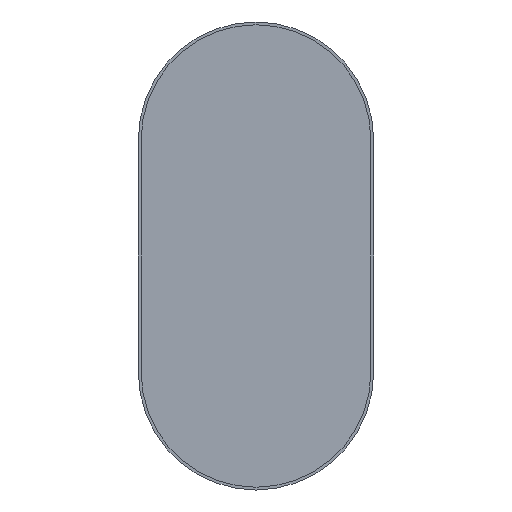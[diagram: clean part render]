
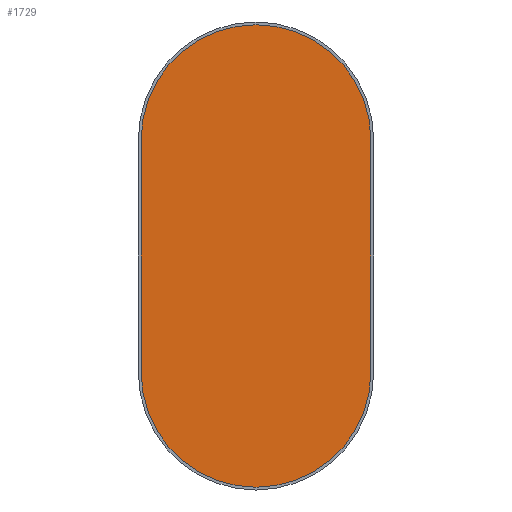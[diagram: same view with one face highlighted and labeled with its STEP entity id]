
A CAD part, front view. The second image highlights one B-rep face of the part: STEP entity #1729.
In plain terms, the highlighted planar face has unit normal (0, -1, 0).
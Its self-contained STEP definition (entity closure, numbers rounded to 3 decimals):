
#96=CIRCLE('',#1888,249.);
#97=CIRCLE('',#1889,249.);
#246=ORIENTED_EDGE('',*,*,#698,.T.);
#247=ORIENTED_EDGE('',*,*,#699,.T.);
#248=ORIENTED_EDGE('',*,*,#700,.T.);
#249=ORIENTED_EDGE('',*,*,#701,.T.);
#698=EDGE_CURVE('',#930,#931,#96,.F.);
#699=EDGE_CURVE('',#931,#932,#1094,.T.);
#700=EDGE_CURVE('',#932,#933,#97,.F.);
#701=EDGE_CURVE('',#933,#930,#1095,.T.);
#930=VERTEX_POINT('',#2643);
#931=VERTEX_POINT('',#2644);
#932=VERTEX_POINT('',#2646);
#933=VERTEX_POINT('',#2648);
#1094=LINE('',#2645,#1268);
#1095=LINE('',#2649,#1269);
#1268=VECTOR('',#2133,1000.);
#1269=VECTOR('',#2136,1000.);
#1433=EDGE_LOOP('',(#246,#247,#248,#249));
#1555=FACE_BOUND('',#1433,.T.);
#1666=PLANE('',#1887);
#1729=ADVANCED_FACE('',(#1555),#1666,.F.);
#1887=AXIS2_PLACEMENT_3D('',#2641,#2129,#2130);
#1888=AXIS2_PLACEMENT_3D('',#2642,#2131,#2132);
#1889=AXIS2_PLACEMENT_3D('',#2647,#2134,#2135);
#2129=DIRECTION('',(0.,1.,0.));
#2130=DIRECTION('',(0.,0.,1.));
#2131=DIRECTION('',(0.,1.,0.));
#2132=DIRECTION('',(0.,0.,1.));
#2133=DIRECTION('',(0.,0.,-1.));
#2134=DIRECTION('',(0.,1.,0.));
#2135=DIRECTION('',(0.,0.,1.));
#2136=DIRECTION('',(0.,0.,1.));
#2641=CARTESIAN_POINT('',(280.17,0.,763.003));
#2642=CARTESIAN_POINT('',(280.17,0.,763.003));
#2643=CARTESIAN_POINT('',(529.17,0.,763.003));
#2644=CARTESIAN_POINT('',(31.17,0.,763.003));
#2645=CARTESIAN_POINT('',(31.17,0.,763.003));
#2646=CARTESIAN_POINT('',(31.17,0.,263.003));
#2647=CARTESIAN_POINT('',(280.17,0.,263.003));
#2648=CARTESIAN_POINT('',(529.17,0.,263.003));
#2649=CARTESIAN_POINT('',(529.17,0.,763.003));
